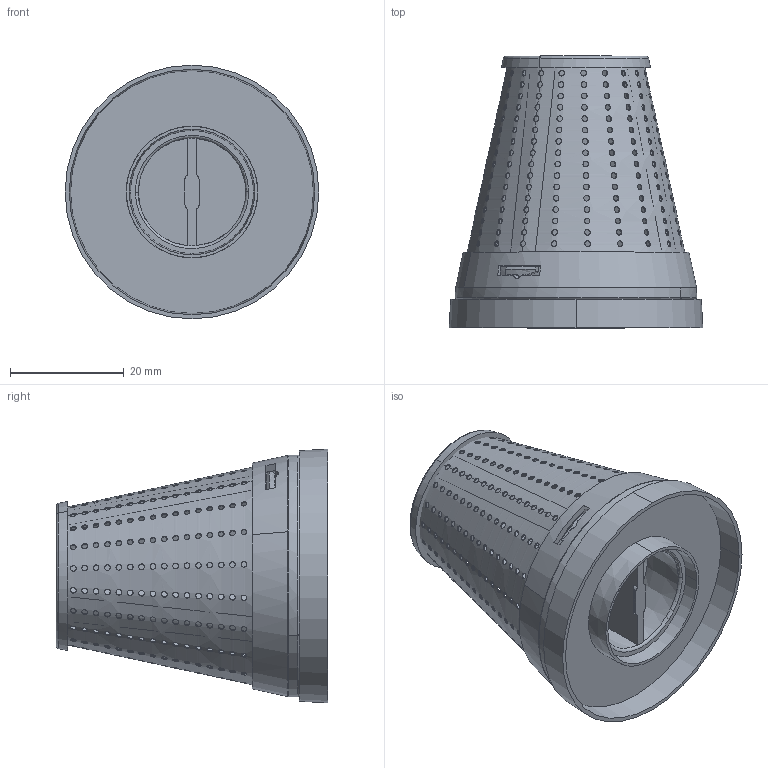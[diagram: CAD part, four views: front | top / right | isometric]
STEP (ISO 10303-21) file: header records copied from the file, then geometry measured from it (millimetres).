
FILE_DESCRIPTION (( 'STEP AP203' ), '1' );
FILE_NAME ('薦郋.STEP', '2025-01-10T04:24:17', ( 'BBL' ), ( 'BBL' ), 'SwSTEP 2.0', 'SolidWorks 2023', '' );
FILE_SCHEMA (( 'CONFIG_CONTROL_DESIGN' ));
Length unit declared in the file: millimetre
Products named in the file (3): LH20072- D64a-007过滤网.step; 滤芯; D61A-05002-0000R#海帕顶盖.stp
Assembly tree (2 placements, depth 2):
  滤芯
    D61A-05002-0000R#海帕顶盖.stp
    LH20072- D64a-007过滤网.step
Bounding box: 44.6 x 47.78 x 44.6 mm (x, y, z)
Volume: 7132.8 mm3; surface area: 18678.4 mm2
Topology: 3 solids, 3 shells, 818 faces, 2615 edges, 1738 vertices
Faces by surface type: cylinder 667, plane 71, cone 58, torus 22
Entity records: 41554 total; most frequent: CARTESIAN_POINT 21143, ORIENTED_EDGE 5230, EDGE_CURVE 2615, DIRECTION 2255, B_SPLINE_CURVE_WITH_KNOTS 2221, VERTEX_POINT 1738, EDGE_LOOP 1411, AXIS2_PLACEMENT_3D 1046
